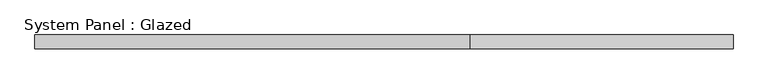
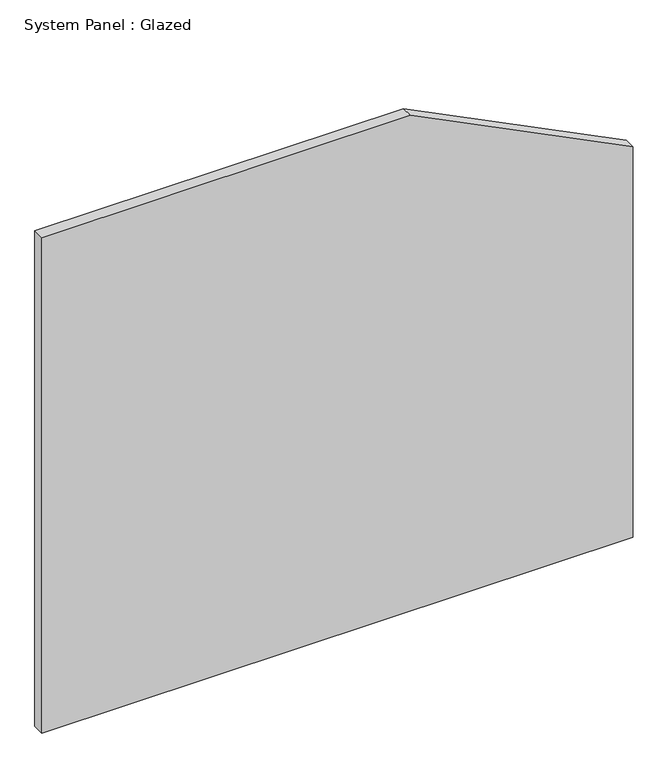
"""IFC4 building model written with IfcOpenShell, lengths in millimetres: plate geometry, System Panel : Glazed."""

from ifc_helpers import new_model, si_unit, frame, origin, place, context, project, spatial, polyline, outline, extrude, source, transform, mapped, element, save


def system_panel_glazed_6eaeb95c(model_context):
    return source(origin(), model_context, "Body", "SweptSolid", [
        extrude(outline(polyline([(0.0, -641.35), (0.0, 641.35), (894.5960429, 641.35), (1135.95, 158.6420857), (1135.95, -641.35), (0.0, -641.35)])), frame((0.0, 19.05, 0.0), z_axis=(0.0, 1.0, 0.0), x_axis=(0.0, 0.0, 1.0)), (0.0, 0.0, 1.0), 25.4),
    ])


if __name__ == "__main__":
    model = new_model("IFC4")
    model_context = context("Model", 3, world=origin())
    ifc_project = project(units=[si_unit("LENGTHUNIT", "METRE", prefix="MILLI")], contexts=[model_context])
    site = spatial("IfcSite", under=ifc_project)
    building = spatial("IfcBuilding", under=site)
    placement = place(None, origin())
    system_panel_glazed_shape = system_panel_glazed_6eaeb95c(model_context)
    element("IfcPlate", 1, ObjectType="System Panel : Glazed", at=placement, inside=building, context=model_context, shape_type="MappedRepresentation", body=[
        mapped(system_panel_glazed_shape, transform((0.0, 0.0, 0.0), x_axis=(1.0, 0.0, 0.0), y_axis=(0.0, 1.0, 0.0), z_axis=(0.0, 0.0, 1.0))),
    ])
    save(model, "model.ifc")
